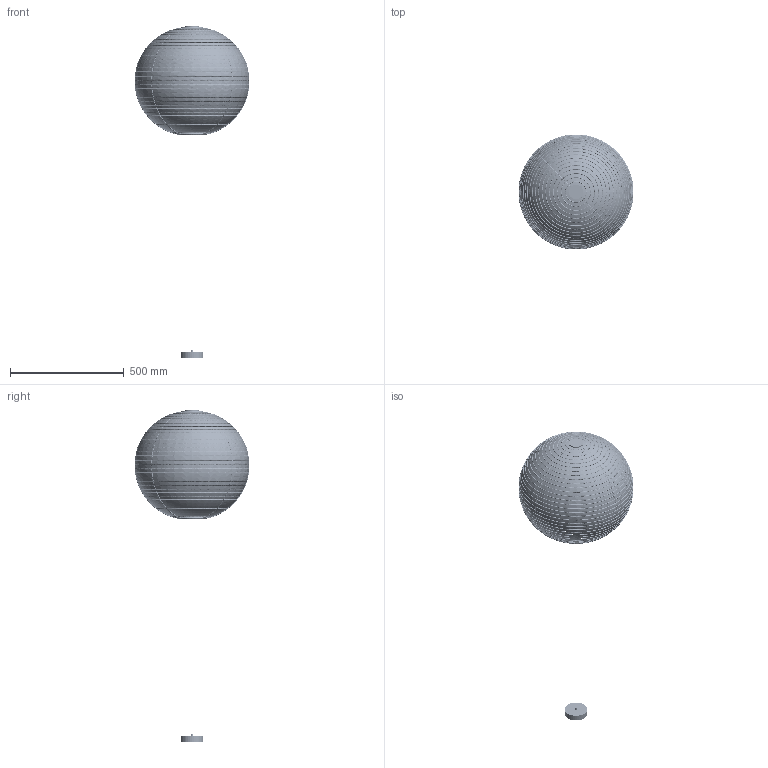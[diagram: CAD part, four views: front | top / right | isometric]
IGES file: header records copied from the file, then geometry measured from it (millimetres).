
Start section: SolidWorks IGES file using analytic representation for surfaces
Global section: file name: F:\燠隴矨\3D\6堎\Rice Paper 45A Pendant Lamp-D50.IGS; native system: SolidWorks 2022; preprocessor: SolidWorks 2022; author: MyPC; date: 230630.094009; units: millimetre
Bounding box: 505.7 x 505.7 x 1459.97 mm (x, y, z)
Surface area: 1872410.8 mm2 (no closed solid volume)
Topology: 0 solids, 0 shells, 411 faces, 3448 edges, 3447 vertices
Faces by surface type: bspline 371, revolution 40
